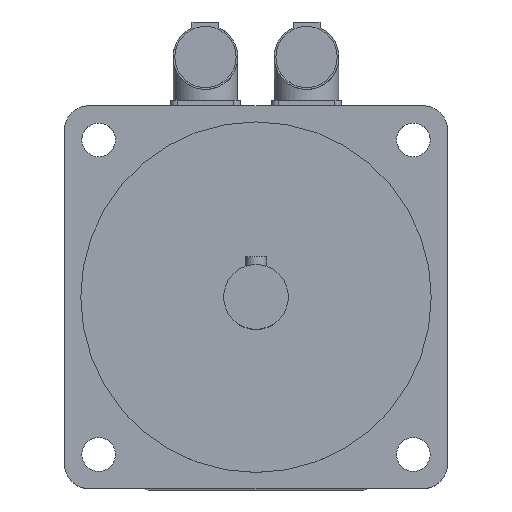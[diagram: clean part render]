
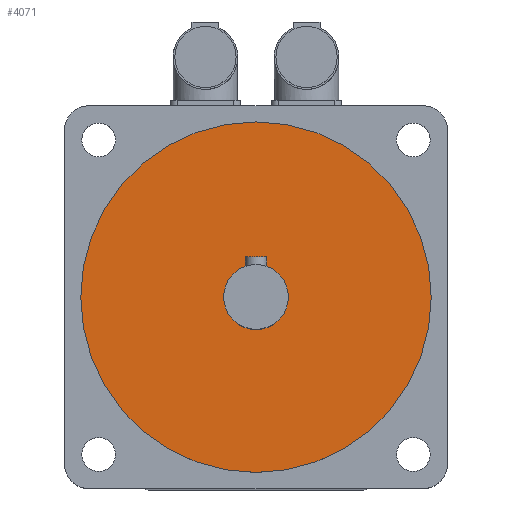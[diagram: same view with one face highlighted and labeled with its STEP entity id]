
A CAD part, top view. The second image highlights one B-rep face of the part: STEP entity #4071.
In plain terms, the highlighted planar face has unit normal (0, 0, 1).
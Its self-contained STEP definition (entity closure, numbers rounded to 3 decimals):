
#28=FACE_BOUND('',#533,.T.);
#79=PLANE('',#4432);
#278=FACE_OUTER_BOUND('',#532,.T.);
#532=EDGE_LOOP('',(#2985));
#533=EDGE_LOOP('',(#2986));
#1517=CIRCLE('',#4427,12.);
#1518=CIRCLE('',#4430,65.);
#1774=VERTEX_POINT('',#6532);
#1775=VERTEX_POINT('',#6536);
#2232=EDGE_CURVE('',#1774,#1774,#1517,.T.);
#2233=EDGE_CURVE('',#1775,#1775,#1518,.T.);
#2985=ORIENTED_EDGE('',*,*,#2233,.T.);
#2986=ORIENTED_EDGE('',*,*,#2232,.T.);
#4071=ADVANCED_FACE('',(#278,#28),#79,.F.);
#4427=AXIS2_PLACEMENT_3D('',#6533,#5205,#5206);
#4430=AXIS2_PLACEMENT_3D('',#6537,#5211,#5212);
#4432=AXIS2_PLACEMENT_3D('',#6540,#5215,#5216);
#5205=DIRECTION('center_axis',(0.,0.,
-1.));
#5206=DIRECTION('ref_axis',(-1.,0.,0.));
#5211=DIRECTION('center_axis',(0.,0.,
1.));
#5212=DIRECTION('ref_axis',(-1.,0.,0.));
#5215=DIRECTION('center_axis',(0.,0.,
-1.));
#5216=DIRECTION('ref_axis',(-1.,0.,0.));
#6532=CARTESIAN_POINT('',(12.,0.,276.5));
#6533=CARTESIAN_POINT('Origin',(0.,0.,
276.5));
#6536=CARTESIAN_POINT('',(65.,0.,276.5));
#6537=CARTESIAN_POINT('Origin',(0.,0.,
276.5));
#6540=CARTESIAN_POINT('Origin',(0.,0.,
276.5));
